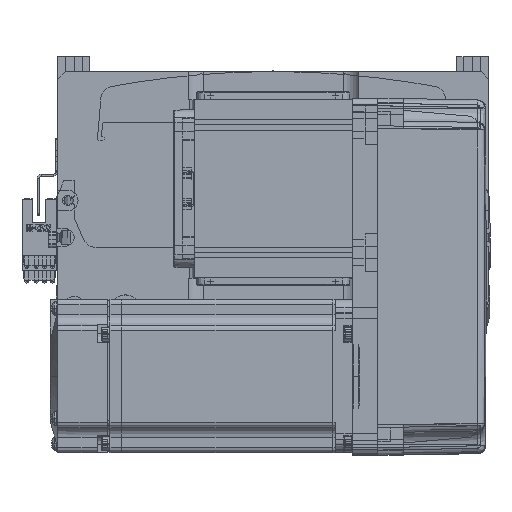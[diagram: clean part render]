
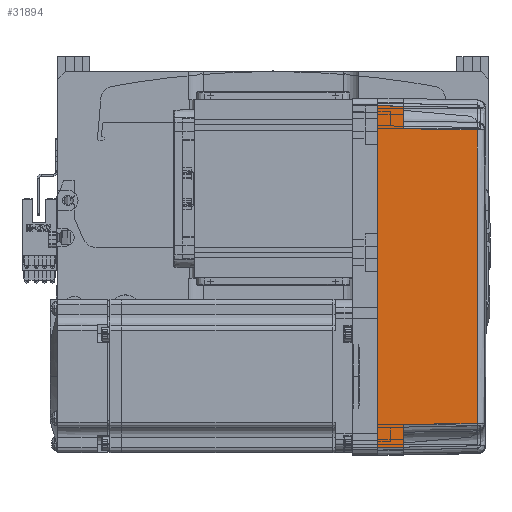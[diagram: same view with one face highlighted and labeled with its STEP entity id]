
A CAD part, top view. The second image highlights one B-rep face of the part: STEP entity #31894.
In plain terms, the highlighted planar face has unit normal (0.018, 0, 1) as drawn and (0, 1, 0.017) by its records, which use the part's own axes.
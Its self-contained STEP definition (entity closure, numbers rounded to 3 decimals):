
#3033 = VERTEX_POINT ( 'NONE', #28306 ) ;
#4054 = LINE ( 'NONE', #67484, #32321 ) ;
#5181 = EDGE_LOOP ( 'NONE', ( #66401, #23547, #70226, #17945, #18450, #71855, #31027, #29884 ) ) ;
#7508 = CARTESIAN_POINT ( 'NONE',  ( 0., 36., 0. ) ) ;
#7586 = DIRECTION ( 'NONE',  ( 0.017, -0.017, 1. ) ) ;
#8431 = VECTOR ( 'NONE', #31600, 1000. ) ;
#9632 = LINE ( 'NONE', #7508, #37893 ) ;
#9748 = B_SPLINE_CURVE_WITH_KNOTS ( 'NONE', 3,
 ( #42217, #64746, #59774, #59248 ),
 .UNSPECIFIED., .F., .F.,
 ( 4, 4 ),
 ( 0., 1. ),
 .UNSPECIFIED. ) ;
#13856 = VECTOR ( 'NONE', #50701, 1000. ) ;
#17842 = DIRECTION ( 'NONE',  ( -0.017, -0.017, 1. ) ) ;
#17945 = ORIENTED_EDGE ( 'NONE', *, *, #25400, .T. ) ;
#18450 = ORIENTED_EDGE ( 'NONE', *, *, #35025, .T. ) ;
#18967 = VERTEX_POINT ( 'NONE', #31972 ) ;
#19959 = CARTESIAN_POINT ( 'NONE',  ( -66.826, 35.825, 10. ) ) ;
#21708 = CARTESIAN_POINT ( 'NONE',  ( 70., 36., 0. ) ) ;
#22421 = DIRECTION ( 'NONE',  ( 0., -0.017, 1. ) ) ;
#23533 = EDGE_CURVE ( 'NONE', #55383, #62443, #46848, .T. ) ;
#23547 = ORIENTED_EDGE ( 'NONE', *, *, #23533, .T. ) ;
#25400 = EDGE_CURVE ( 'NONE', #69945, #55932, #9748, .T. ) ;
#25431 = VECTOR ( 'NONE', #17842, 1000. ) ;
#28159 = DIRECTION ( 'NONE',  ( 1., 0., 0. ) ) ;
#28306 = CARTESIAN_POINT ( 'NONE',  ( 67., 36., 0. ) ) ;
#29440 = VERTEX_POINT ( 'NONE', #44035 ) ;
#29817 = CARTESIAN_POINT ( 'NONE',  ( -67., 36., 0. ) ) ;
#29884 = ORIENTED_EDGE ( 'NONE', *, *, #32624, .F. ) ;
#30040 = VECTOR ( 'NONE', #41892, 1000. ) ;
#31027 = ORIENTED_EDGE ( 'NONE', *, *, #42671, .F. ) ;
#31379 = LINE ( 'NONE', #60257, #8431 ) ;
#31600 = DIRECTION ( 'NONE',  ( 0.017, 0.017, -1. ) ) ;
#31731 = CARTESIAN_POINT ( 'NONE',  ( 57.495, 35.32, 38.985 ) ) ;
#31894 = ADVANCED_FACE ( 'NONE', ( #45700 ), #73150, .T. ) ;
#31972 = CARTESIAN_POINT ( 'NONE',  ( -67., 36., 0. ) ) ;
#32110 = CARTESIAN_POINT ( 'NONE',  ( -58., 35.825, 10. ) ) ;
#32321 = VECTOR ( 'NONE', #28159, 1000. ) ;
#32624 = EDGE_CURVE ( 'NONE', #18967, #3033, #9632, .T. ) ;
#33471 = EDGE_CURVE ( 'NONE', #62443, #69945, #58943, .T. ) ;
#35025 = EDGE_CURVE ( 'NONE', #55932, #39326, #31379, .T. ) ;
#35313 = EDGE_CURVE ( 'NONE', #18967, #55383, #72097, .T. ) ;
#37893 = VECTOR ( 'NONE', #70528, 1000. ) ;
#39326 = VERTEX_POINT ( 'NONE', #49873 ) ;
#39899 = CARTESIAN_POINT ( 'NONE',  ( -58., 35.825, 10. ) ) ;
#40445 = LINE ( 'NONE', #50742, #25431 ) ;
#41892 = DIRECTION ( 'NONE',  ( 1., 0., 0. ) ) ;
#41942 = VECTOR ( 'NONE', #7586, 1000. ) ;
#42217 = CARTESIAN_POINT ( 'NONE',  ( -57.495, 35.32, 38.985 ) ) ;
#42671 = EDGE_CURVE ( 'NONE', #3033, #29440, #40445, .T. ) ;
#42854 = AXIS2_PLACEMENT_3D ( 'NONE', #21708, #56245, #22421 ) ;
#44035 = CARTESIAN_POINT ( 'NONE',  ( 66.826, 35.825, 10. ) ) ;
#45700 = FACE_OUTER_BOUND ( 'NONE', #5181, .T. ) ;
#46848 = LINE ( 'NONE', #71108, #30040 ) ;
#49873 = CARTESIAN_POINT ( 'NONE',  ( 58., 35.825, 10. ) ) ;
#49907 = CARTESIAN_POINT ( 'NONE',  ( -57.495, 35.32, 38.985 ) ) ;
#50701 = DIRECTION ( 'NONE',  ( 0.017, -0.017, 1. ) ) ;
#50742 = CARTESIAN_POINT ( 'NONE',  ( 67.001, 36.001, -0.052 ) ) ;
#55383 = VERTEX_POINT ( 'NONE', #19959 ) ;
#55932 = VERTEX_POINT ( 'NONE', #31731 ) ;
#56245 = DIRECTION ( 'NONE',  ( 0., 1., 0.017 ) ) ;
#56603 = EDGE_CURVE ( 'NONE', #39326, #29440, #4054, .T. ) ;
#58943 = LINE ( 'NONE', #32110, #13856 ) ;
#59248 = CARTESIAN_POINT ( 'NONE',  ( 57.495, 35.32, 38.985 ) ) ;
#59774 = CARTESIAN_POINT ( 'NONE',  ( 19.165, 35.316, 39.181 ) ) ;
#60257 = CARTESIAN_POINT ( 'NONE',  ( 57.495, 35.32, 38.985 ) ) ;
#62443 = VERTEX_POINT ( 'NONE', #39899 ) ;
#64746 = CARTESIAN_POINT ( 'NONE',  ( -19.165, 35.316, 39.181 ) ) ;
#66401 = ORIENTED_EDGE ( 'NONE', *, *, #35313, .T. ) ;
#67484 = CARTESIAN_POINT ( 'NONE',  ( 70., 35.825, 10. ) ) ;
#69945 = VERTEX_POINT ( 'NONE', #49907 ) ;
#70226 = ORIENTED_EDGE ( 'NONE', *, *, #33471, .T. ) ;
#70528 = DIRECTION ( 'NONE',  ( 1., 0., 0. ) ) ;
#71108 = CARTESIAN_POINT ( 'NONE',  ( 70., 35.825, 10. ) ) ;
#71855 = ORIENTED_EDGE ( 'NONE', *, *, #56603, .T. ) ;
#72097 = LINE ( 'NONE', #29817, #41942 ) ;
#73150 = PLANE ( 'NONE',  #42854 ) ;
